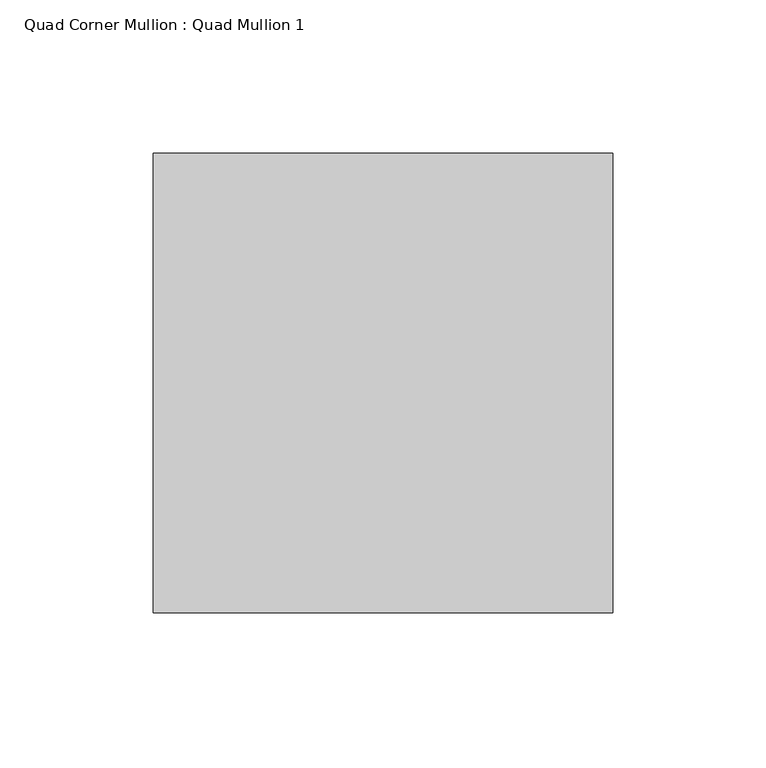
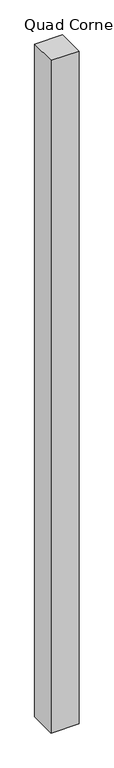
"""IFC4 building model written with IfcOpenShell, lengths in millimetres: member geometry, Quad Corner Mullion : Quad Mullion 1."""

from ifc_helpers import new_model, si_unit, frame, origin, place, context, project, spatial, polyline, outline, extrude, source, transform, mapped, element, save


def quad_corner_mullion_quad_mullion_1_84add008(model_context):
    return source(origin(), model_context, "Body", "SweptSolid", [
        extrude(outline(polyline([(75.0, -75.0), (-75.0, -75.0), (-75.0, 75.0), (75.0, 75.0), (75.0, -75.0)])), frame((0.0, 0.0, -3800.0), z_axis=(0.0, 0.0, 1.0), x_axis=(1.0, 0.0, 0.0)), (0.0, 0.0, 1.0), 3800.0),
    ])


if __name__ == "__main__":
    model = new_model("IFC4")
    model_context = context("Model", 3, world=origin())
    ifc_project = project(units=[si_unit("LENGTHUNIT", "METRE", prefix="MILLI")], contexts=[model_context])
    site = spatial("IfcSite", under=ifc_project)
    building = spatial("IfcBuilding", under=site)
    placement = place(None, origin())
    quad_corner_mullion_quad_mullion_1_shape = quad_corner_mullion_quad_mullion_1_84add008(model_context)
    element("IfcMember", 1, ObjectType="Quad Corner Mullion : Quad Mullion 1", at=placement, inside=building, context=model_context, shape_type="MappedRepresentation", body=[
        mapped(quad_corner_mullion_quad_mullion_1_shape, transform((0.0, 0.0, 0.0), x_axis=(1.0, 0.0, 0.0), y_axis=(0.0, 1.0, 0.0), z_axis=(0.0, 0.0, 1.0))),
    ])
    save(model, "model.ifc")
